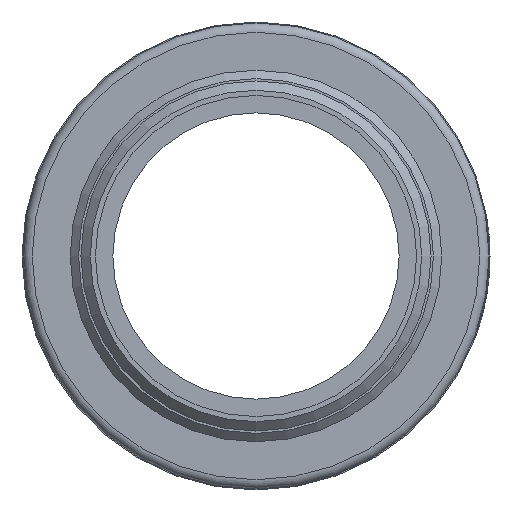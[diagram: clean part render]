
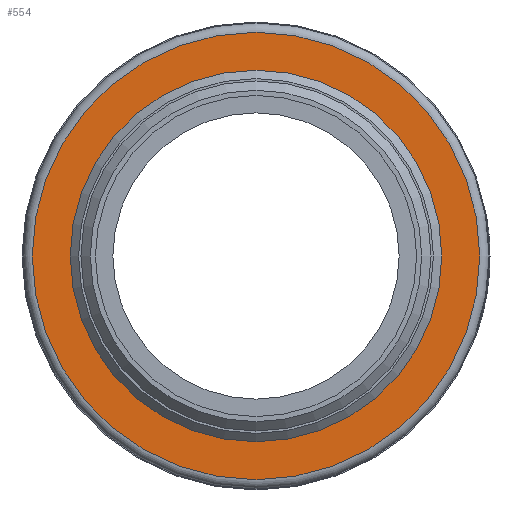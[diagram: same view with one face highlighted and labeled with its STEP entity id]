
A CAD part, front view. The second image highlights one B-rep face of the part: STEP entity #554.
In plain terms, the highlighted planar face has unit normal (0, -1, 0).
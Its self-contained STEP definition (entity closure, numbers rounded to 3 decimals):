
#143=ORIENTED_EDGE('',*,*,#238,.F.);
#144=ORIENTED_EDGE('',*,*,#246,.T.);
#238=EDGE_CURVE('',#297,#297,#348,.T.);
#246=EDGE_CURVE('',#305,#305,#356,.T.);
#297=VERTEX_POINT('',#848);
#305=VERTEX_POINT('',#870);
#348=CIRCLE('',#637,39.85);
#356=CIRCLE('',#651,48.);
#398=EDGE_LOOP('',(#143));
#399=EDGE_LOOP('',(#144));
#478=FACE_BOUND('',#398,.T.);
#479=FACE_BOUND('',#399,.T.);
#530=PLANE('',#650);
#554=ADVANCED_FACE('',(#478,#479),#530,.T.);
#637=AXIS2_PLACEMENT_3D('',#847,#726,#727);
#650=AXIS2_PLACEMENT_3D('',#868,#752,#753);
#651=AXIS2_PLACEMENT_3D('',#869,#754,#755);
#726=DIRECTION('',(0.,-1.,0.));
#727=DIRECTION('',(0.,0.,-1.));
#752=DIRECTION('',(0.,-1.,0.));
#753=DIRECTION('',(0.,0.,-1.));
#754=DIRECTION('',(0.,-1.,0.));
#755=DIRECTION('',(0.,0.,-1.));
#847=CARTESIAN_POINT('',(0.,0.,0.));
#848=CARTESIAN_POINT('',(0.,0.,-39.85));
#868=CARTESIAN_POINT('',(0.,0.,38.05));
#869=CARTESIAN_POINT('',(0.,0.,0.));
#870=CARTESIAN_POINT('',(0.,0.,-48.));
